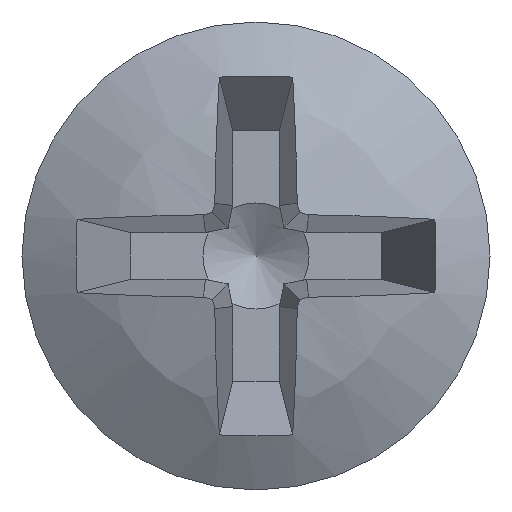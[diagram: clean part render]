
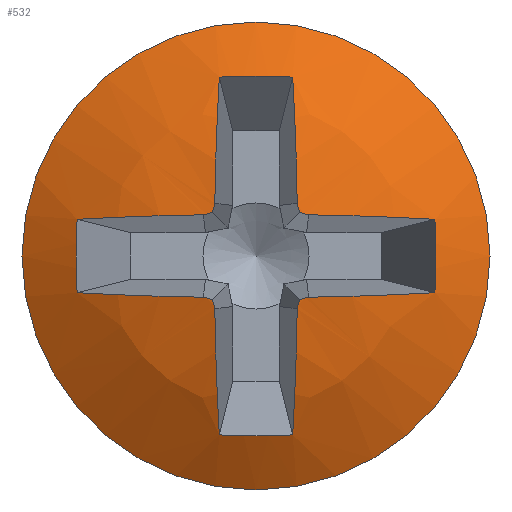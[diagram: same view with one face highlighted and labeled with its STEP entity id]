
A CAD part, front view. The second image highlights one B-rep face of the part: STEP entity #532.
In plain terms, the highlighted spherical face has radius 5 mm.
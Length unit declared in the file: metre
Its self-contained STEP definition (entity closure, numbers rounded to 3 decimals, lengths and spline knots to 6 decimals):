
#26=SPHERICAL_SURFACE('',#580,0.005);
#30=CIRCLE('',#581,0.004999);
#31=CIRCLE('',#582,0.005);
#32=CIRCLE('',#583,0.005);
#33=CIRCLE('',#584,0.004999);
#34=CIRCLE('',#585,0.004999);
#35=CIRCLE('',#586,0.004999);
#36=CIRCLE('',#587,0.005);
#37=CIRCLE('',#588,0.005);
#38=CIRCLE('',#589,0.004999);
#39=CIRCLE('',#590,0.004999);
#40=CIRCLE('',#591,0.004999);
#41=CIRCLE('',#592,0.005);
#42=CIRCLE('',#593,0.005);
#43=CIRCLE('',#594,0.004999);
#44=CIRCLE('',#595,0.004999);
#45=CIRCLE('',#596,0.004999);
#46=CIRCLE('',#597,0.005);
#47=CIRCLE('',#598,0.005);
#48=CIRCLE('',#599,0.004999);
#49=CIRCLE('',#600,0.004999);
#50=CIRCLE('',#601,0.0028);
#75=ORIENTED_EDGE('',*,*,#231,.F.);
#76=ORIENTED_EDGE('',*,*,#232,.T.);
#77=ORIENTED_EDGE('',*,*,#233,.T.);
#78=ORIENTED_EDGE('',*,*,#234,.T.);
#79=ORIENTED_EDGE('',*,*,#235,.F.);
#80=ORIENTED_EDGE('',*,*,#236,.F.);
#81=ORIENTED_EDGE('',*,*,#237,.T.);
#82=ORIENTED_EDGE('',*,*,#238,.T.);
#83=ORIENTED_EDGE('',*,*,#239,.F.);
#84=ORIENTED_EDGE('',*,*,#240,.T.);
#85=ORIENTED_EDGE('',*,*,#241,.T.);
#86=ORIENTED_EDGE('',*,*,#242,.T.);
#87=ORIENTED_EDGE('',*,*,#243,.T.);
#88=ORIENTED_EDGE('',*,*,#244,.F.);
#89=ORIENTED_EDGE('',*,*,#245,.T.);
#90=ORIENTED_EDGE('',*,*,#246,.T.);
#91=ORIENTED_EDGE('',*,*,#247,.T.);
#92=ORIENTED_EDGE('',*,*,#248,.T.);
#93=ORIENTED_EDGE('',*,*,#249,.T.);
#94=ORIENTED_EDGE('',*,*,#250,.F.);
#95=ORIENTED_EDGE('',*,*,#251,.F.);
#231=EDGE_CURVE('',#309,#310,#30,.T.);
#232=EDGE_CURVE('',#309,#311,#31,.F.);
#233=EDGE_CURVE('',#311,#312,#32,.F.);
#234=EDGE_CURVE('',#312,#313,#33,.F.);
#235=EDGE_CURVE('',#314,#313,#34,.T.);
#236=EDGE_CURVE('',#315,#314,#35,.T.);
#237=EDGE_CURVE('',#315,#316,#36,.F.);
#238=EDGE_CURVE('',#316,#317,#37,.F.);
#239=EDGE_CURVE('',#318,#317,#38,.T.);
#240=EDGE_CURVE('',#318,#319,#39,.F.);
#241=EDGE_CURVE('',#319,#320,#40,.F.);
#242=EDGE_CURVE('',#320,#321,#41,.F.);
#243=EDGE_CURVE('',#321,#322,#42,.F.);
#244=EDGE_CURVE('',#323,#322,#43,.T.);
#245=EDGE_CURVE('',#323,#324,#44,.F.);
#246=EDGE_CURVE('',#324,#325,#45,.F.);
#247=EDGE_CURVE('',#325,#326,#46,.F.);
#248=EDGE_CURVE('',#326,#327,#47,.F.);
#249=EDGE_CURVE('',#327,#328,#48,.F.);
#250=EDGE_CURVE('',#310,#328,#49,.T.);
#251=EDGE_CURVE('',#329,#329,#50,.T.);
#309=VERTEX_POINT('',#844);
#310=VERTEX_POINT('',#845);
#311=VERTEX_POINT('',#847);
#312=VERTEX_POINT('',#849);
#313=VERTEX_POINT('',#851);
#314=VERTEX_POINT('',#853);
#315=VERTEX_POINT('',#855);
#316=VERTEX_POINT('',#857);
#317=VERTEX_POINT('',#859);
#318=VERTEX_POINT('',#861);
#319=VERTEX_POINT('',#863);
#320=VERTEX_POINT('',#865);
#321=VERTEX_POINT('',#867);
#322=VERTEX_POINT('',#869);
#323=VERTEX_POINT('',#871);
#324=VERTEX_POINT('',#873);
#325=VERTEX_POINT('',#875);
#326=VERTEX_POINT('',#877);
#327=VERTEX_POINT('',#879);
#328=VERTEX_POINT('',#881);
#329=VERTEX_POINT('',#884);
#429=EDGE_LOOP('',(#75,#76,#77,#78,#79,#80,#81,#82,#83,#84,#85,#86,#87,
#88,#89,#90,#91,#92,#93,#94));
#430=EDGE_LOOP('',(#95));
#467=FACE_BOUND('',#429,.T.);
#468=FACE_BOUND('',#430,.T.);
#532=ADVANCED_FACE('',(#467,#468),#26,.T.);
#580=AXIS2_PLACEMENT_3D('',#842,#665,#666);
#581=AXIS2_PLACEMENT_3D('',#843,#667,#668);
#582=AXIS2_PLACEMENT_3D('',#846,#669,#670);
#583=AXIS2_PLACEMENT_3D('',#848,#671,#672);
#584=AXIS2_PLACEMENT_3D('',#850,#673,#674);
#585=AXIS2_PLACEMENT_3D('',#852,#675,#676);
#586=AXIS2_PLACEMENT_3D('',#854,#677,#678);
#587=AXIS2_PLACEMENT_3D('',#856,#679,#680);
#588=AXIS2_PLACEMENT_3D('',#858,#681,#682);
#589=AXIS2_PLACEMENT_3D('',#860,#683,#684);
#590=AXIS2_PLACEMENT_3D('',#862,#685,#686);
#591=AXIS2_PLACEMENT_3D('',#864,#687,#688);
#592=AXIS2_PLACEMENT_3D('',#866,#689,#690);
#593=AXIS2_PLACEMENT_3D('',#868,#691,#692);
#594=AXIS2_PLACEMENT_3D('',#870,#693,#694);
#595=AXIS2_PLACEMENT_3D('',#872,#695,#696);
#596=AXIS2_PLACEMENT_3D('',#874,#697,#698);
#597=AXIS2_PLACEMENT_3D('',#876,#699,#700);
#598=AXIS2_PLACEMENT_3D('',#878,#701,#702);
#599=AXIS2_PLACEMENT_3D('',#880,#703,#704);
#600=AXIS2_PLACEMENT_3D('',#882,#705,#706);
#601=AXIS2_PLACEMENT_3D('',#883,#707,#708);
#665=DIRECTION('',(0.,1.,0.));
#666=DIRECTION('',(0.,0.,1.));
#667=DIRECTION('',(0.993,-0.122,0.));
#668=DIRECTION('',(-0.122,-0.993,0.));
#669=DIRECTION('',(0.965,-0.122,0.232));
#670=DIRECTION('',(-0.233,0.,0.972));
#671=DIRECTION('',(0.232,-0.122,0.965));
#672=DIRECTION('',(-0.972,0.,0.233));
#673=DIRECTION('',(0.,-0.122,0.993));
#674=DIRECTION('',(0.,-0.993,-0.122));
#675=DIRECTION('',(0.896,-0.443,0.));
#676=DIRECTION('',(-0.443,-0.896,0.));
#677=DIRECTION('',(0.,-0.122,-0.993));
#678=DIRECTION('',(0.,0.993,-0.122));
#679=DIRECTION('',(0.232,-0.122,-0.965));
#680=DIRECTION('',(0.972,0.,0.233));
#681=DIRECTION('',(0.965,-0.122,-0.232));
#682=DIRECTION('',(0.233,0.,0.972));
#683=DIRECTION('',(0.993,-0.122,0.));
#684=DIRECTION('',(-0.122,-0.993,0.));
#685=DIRECTION('',(0.,-0.443,-0.896));
#686=DIRECTION('',(0.,0.896,-0.443));
#687=DIRECTION('',(-0.993,-0.122,0.));
#688=DIRECTION('',(-0.122,0.993,0.));
#689=DIRECTION('',(-0.965,-0.122,-0.232));
#690=DIRECTION('',(0.233,0.,-0.972));
#691=DIRECTION('',(-0.232,-0.122,-0.965));
#692=DIRECTION('',(0.972,0.,-0.233));
#693=DIRECTION('',(0.,-0.122,-0.993));
#694=DIRECTION('',(0.,0.993,-0.122));
#695=DIRECTION('',(-0.896,-0.443,0.));
#696=DIRECTION('',(-0.443,0.896,0.));
#697=DIRECTION('',(0.,-0.122,0.993));
#698=DIRECTION('',(0.,-0.993,-0.122));
#699=DIRECTION('',(-0.232,-0.122,0.965));
#700=DIRECTION('',(-0.972,0.,-0.233));
#701=DIRECTION('',(-0.965,-0.122,0.232));
#702=DIRECTION('',(-0.233,0.,-0.972));
#703=DIRECTION('',(-0.993,-0.122,0.));
#704=DIRECTION('',(-0.122,0.993,0.));
#705=DIRECTION('',(0.,-0.443,0.896));
#706=DIRECTION('',(0.,-0.896,-0.443));
#707=DIRECTION('',(0.,1.,0.));
#708=DIRECTION('',(0.,0.,1.));
#842=CARTESIAN_POINT('',(0.29622,-0.040769,0.037393));
#843=CARTESIAN_POINT('',(0.296331,-0.040783,0.037393));
#844=CARTESIAN_POINT('',(0.295727,-0.045705,0.036762));
#845=CARTESIAN_POINT('',(0.29578,-0.045266,0.035252));
#846=CARTESIAN_POINT('',(0.2962,-0.040767,0.037388));
#847=CARTESIAN_POINT('',(0.295699,-0.045715,0.036872));
#848=CARTESIAN_POINT('',(0.296215,-0.040767,0.037373));
#849=CARTESIAN_POINT('',(0.295589,-0.045705,0.0369));
#850=CARTESIAN_POINT('',(0.29622,-0.040783,0.037504));
#851=CARTESIAN_POINT('',(0.294079,-0.045266,0.036954));
#852=CARTESIAN_POINT('',(0.296285,-0.040802,0.037393));
#853=CARTESIAN_POINT('',(0.294079,-0.045266,0.037832));
#854=CARTESIAN_POINT('',(0.29622,-0.040783,0.037282));
#855=CARTESIAN_POINT('',(0.295589,-0.045705,0.037886));
#856=CARTESIAN_POINT('',(0.296215,-0.040767,0.037413));
#857=CARTESIAN_POINT('',(0.295699,-0.045715,0.037914));
#858=CARTESIAN_POINT('',(0.2962,-0.040767,0.037398));
#859=CARTESIAN_POINT('',(0.295727,-0.045705,0.038023));
#860=CARTESIAN_POINT('',(0.296331,-0.040783,0.037393));
#861=CARTESIAN_POINT('',(0.29578,-0.045266,0.039534));
#862=CARTESIAN_POINT('',(0.29622,-0.040802,0.037327));
#863=CARTESIAN_POINT('',(0.296659,-0.045266,0.039534));
#864=CARTESIAN_POINT('',(0.296108,-0.040783,0.037393));
#865=CARTESIAN_POINT('',(0.296713,-0.045705,0.038023));
#866=CARTESIAN_POINT('',(0.296239,-0.040767,0.037398));
#867=CARTESIAN_POINT('',(0.29674,-0.045715,0.037914));
#868=CARTESIAN_POINT('',(0.296224,-0.040767,0.037413));
#869=CARTESIAN_POINT('',(0.29685,-0.045705,0.037886));
#870=CARTESIAN_POINT('',(0.29622,-0.040783,0.037282));
#871=CARTESIAN_POINT('',(0.298361,-0.045266,0.037832));
#872=CARTESIAN_POINT('',(0.296154,-0.040802,0.037393));
#873=CARTESIAN_POINT('',(0.298361,-0.045266,0.036954));
#874=CARTESIAN_POINT('',(0.29622,-0.040783,0.037504));
#875=CARTESIAN_POINT('',(0.29685,-0.045705,0.0369));
#876=CARTESIAN_POINT('',(0.296224,-0.040767,0.037373));
#877=CARTESIAN_POINT('',(0.29674,-0.045715,0.036872));
#878=CARTESIAN_POINT('',(0.296239,-0.040767,0.037388));
#879=CARTESIAN_POINT('',(0.296713,-0.045705,0.036762));
#880=CARTESIAN_POINT('',(0.296108,-0.040783,0.037393));
#881=CARTESIAN_POINT('',(0.296659,-0.045266,0.035252));
#882=CARTESIAN_POINT('',(0.29622,-0.040802,0.037458));
#883=CARTESIAN_POINT('',(0.29622,-0.044912,0.037393));
#884=CARTESIAN_POINT('',(0.29622,-0.044912,0.040193));
